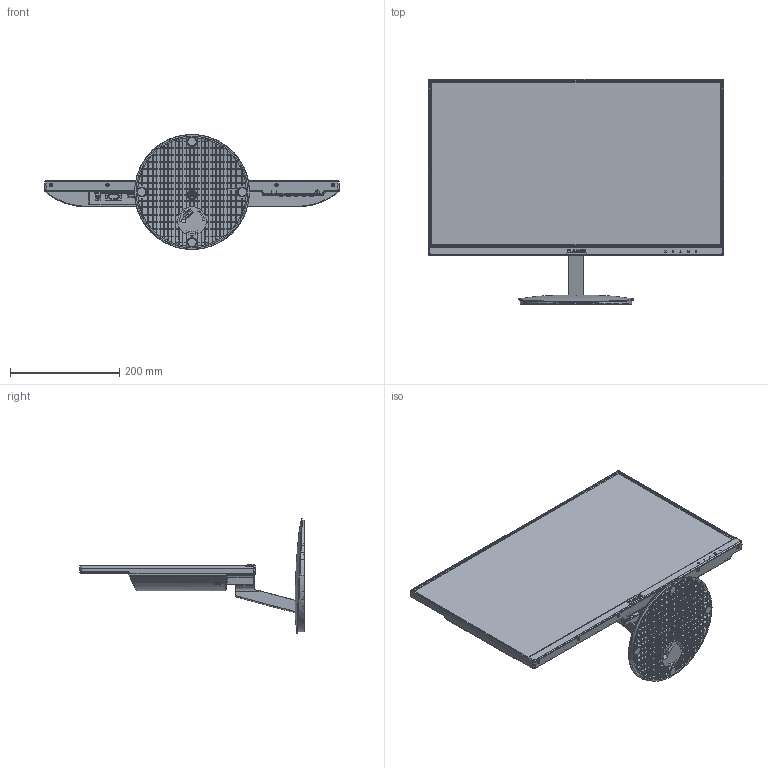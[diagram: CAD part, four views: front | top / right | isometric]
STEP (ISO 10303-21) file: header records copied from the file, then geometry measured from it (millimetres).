
FILE_DESCRIPTION((''),'2;1');
FILE_NAME('_00-238-1228_ASM','2021-12-28T18:49:15',('wkj23'),(''),'CREO PARAMETRIC BY PTC INC, 2019224','CREO PARAMETRIC BY PTC INC, 2019224','');
FILE_SCHEMA(('AUTOMOTIVE_DESIGN { 1 0 10303 214 1 1 1 1 }'));
Products named in the file (103): PRT0049_1_1; PRT0050_1_1; PRT0051_1_1; PRT0052_1_1; PRT0053_1_1; PRT0054_1_1; PRT0055_1_1; PRT0056_1_1; PRT0057_1_1; PRT0058_1_1; PRT0059_1_1; PRT0060_1_1; PRT0061_1_1; PRT0062_1_1; PRT0063_1_1; PRT0064_1_1; PRT0065_1_1; PRT0066_1_1; PRT0067_1_1; PRT0068_1_1; PRT0069_1_1; PRT0070_1_1; PRT0071_1_1; PRT0072_1_1; PRT0073_1_1; PRT0074_1_1; PRT0075_1_1; PRT0076_1_1; PRT0077_1_1; PRT0078_1_1; PRT0079_1_1; PRT0080_1_1; PRT0081_1_1; PRT0082_1_1; PRT0083_1_1; PRT0084_1_1; PRT0085_1_1; PRT0086_1_1; PRT0087_1_1; PRT0088_1_1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
Assembly tree (102 placements, depth 6):
  _00-238-1228_ASM
    00-238-DJ-ASSY_ASM_ASM_10_ASM
      00-238-DJ-ASSY_ASM_31_ASM_1_ASM
        OPENCELL-ASSY_ASM_4_ASM_1_ASM
          ASSY_PANEL_M238DAN01_1QA_ASM_11_ASM
            PRT0049_1_1
            PRT0050_1_1
            PRT0051_1_1
            PRT0052_1_1
            PRT0053_1_1
            PRT0054_1_1
            PRT0055_1_1
            PRT0056_1_1
            PRT0057_1_1
            PRT0058_1_1
            PRT0059_1_1
            PRT0060_1_1
            PRT0061_1_1
            PRT0062_1_1
            PRT0063_1_1
            PRT0064_1_1
            PRT0065_1_1
            PRT0066_1_1
            PRT0067_1_1
            PRT0068_1_1
            PRT0069_1_1
            PRT0070_1_1
            PRT0071_1_1
            PRT0072_1_1
            PRT0073_1_1
            PRT0074_1_1
            PRT0075_1_1
            PRT0076_1_1
            PRT0077_1_1
            PRT0078_1_1
            PRT0079_1_1
            PRT0080_1_1
            PRT0081_1_1
            PRT0082_1_1
            PRT0083_1_1
            PRT0084_1_1
            PRT0085_1_1
            PRT0086_1_1
            PRT0087_1_1
            PRT0088_1_1
            PRT0089_1_1
            PRT0090_1_1
            PRT0091_1_1
            PRT0092_1_1
            PRT0093_1_1
            PRT0094_1_1
            PRT0095_1_1
            PRT0096_1_1
            PRT0097_1_1
            _ASSY_PANEL_M238DAN01_1QA_ASM_1
        238-CAB-ASSY_ASM_6_ASM_1_ASM
          XIABIANTIAO_2_1
          PLANAR_238_PANEL_LOGO_1_ASM_1_ASM
            PLANAR_238_PANEL_LOGO_1_1_1
            PLANAR_238_PANEL_LOGO_1_2_1
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Bounding box: 539.9 x 411.67 x 210 mm (x, y, z)
Volume: 1276981.4 mm3; surface area: 2720641.8 mm2
Topology: 88 solids, 91 shells, 8348 faces, 23196 edges, 15194 vertices
Faces by surface type: plane 6017, cylinder 1370, bspline 337, cone 223, torus 149, revolution 143, extrusion 90, sphere 19
Entity records: 287009 total; most frequent: CARTESIAN_POINT 69798, ORIENTED_EDGE 46336, DIRECTION 40264, EDGE_CURVE 23179, VECTOR 17173, LINE 17083, VERTEX_POINT 15194, AXIS2_PLACEMENT_3D 11474
